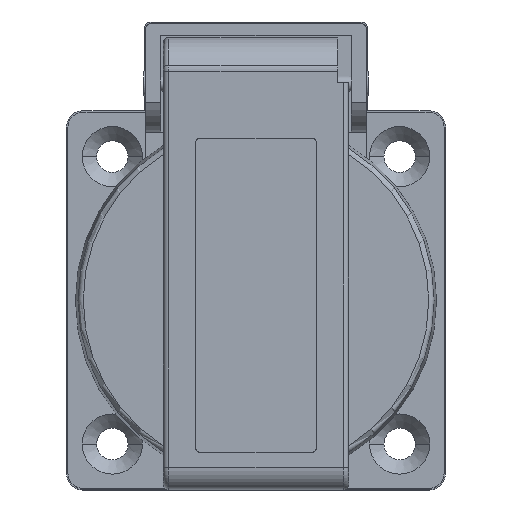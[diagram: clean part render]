
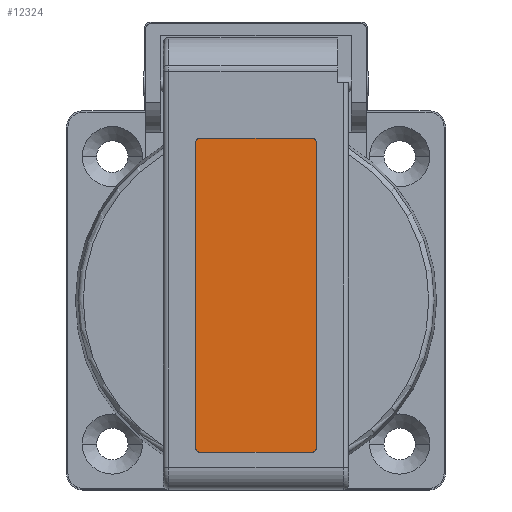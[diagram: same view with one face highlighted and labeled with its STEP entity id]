
A CAD part, top view. The second image highlights one B-rep face of the part: STEP entity #12324.
In plain terms, the highlighted planar face has unit normal (0, 0, 1).
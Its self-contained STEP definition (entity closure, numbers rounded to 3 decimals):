
#2327=CARTESIAN_POINT('',(-7.5,-19.7,13.8));
#2328=DIRECTION('',(0.,0.,1.));
#2329=DIRECTION('',(-1.,0.,0.));
#2330=AXIS2_PLACEMENT_3D('',#2327,#2328,#2329);
#2335=DIRECTION('',(0.,-1.,0.));
#2336=VECTOR('',#2335,40.7);
#2337=CARTESIAN_POINT('',(-8.,21.,13.8));
#2338=LINE('1462',#2337,#2336);
#2342=CARTESIAN_POINT('',(-7.5,21.,13.8));
#2343=DIRECTION('',(0.,0.,1.));
#2344=DIRECTION('',(0.,1.,0.));
#2345=AXIS2_PLACEMENT_3D('',#2342,#2343,#2344);
#2350=DIRECTION('',(-1.,0.,0.));
#2351=VECTOR('',#2350,15.);
#2352=CARTESIAN_POINT('',(7.5,21.5,13.8));
#2353=LINE('1461',#2352,#2351);
#2357=CARTESIAN_POINT('',(7.5,21.,13.8));
#2358=DIRECTION('',(0.,0.,1.));
#2359=DIRECTION('',(1.,0.,0.));
#2360=AXIS2_PLACEMENT_3D('',#2357,#2358,#2359);
#2365=DIRECTION('',(0.,1.,0.));
#2366=VECTOR('',#2365,40.7);
#2367=CARTESIAN_POINT('',(8.,-19.7,13.8));
#2368=LINE('1460',#2367,#2366);
#2372=CARTESIAN_POINT('',(7.5,-19.7,13.8));
#2373=DIRECTION('',(0.,0.,1.));
#2374=DIRECTION('',(0.,-1.,0.));
#2375=AXIS2_PLACEMENT_3D('',#2372,#2373,#2374);
#2380=DIRECTION('',(1.,0.,0.));
#2381=VECTOR('',#2380,15.);
#2382=CARTESIAN_POINT('',(-7.5,-20.2,13.8));
#2383=LINE('1459',#2382,#2381);
#8934=CARTESIAN_POINT('',(-8.,-19.7,13.8));
#8935=CARTESIAN_POINT('',(-7.5,-20.2,13.8));
#8936=VERTEX_POINT('',#8934);
#8937=VERTEX_POINT('',#8935);
#8942=CARTESIAN_POINT('',(7.5,-20.2,13.8));
#8943=CARTESIAN_POINT('',(8.,-19.7,13.8));
#8944=VERTEX_POINT('',#8942);
#8945=VERTEX_POINT('',#8943);
#8950=CARTESIAN_POINT('',(-7.5,21.5,13.8));
#8951=CARTESIAN_POINT('',(-8.,21.,13.8));
#8952=VERTEX_POINT('',#8950);
#8953=VERTEX_POINT('',#8951);
#8958=CARTESIAN_POINT('',(8.,21.,13.8));
#8959=CARTESIAN_POINT('',(7.5,21.5,13.8));
#8960=VERTEX_POINT('',#8958);
#8961=VERTEX_POINT('',#8959);
#12303=CARTESIAN_POINT('',(-12.3,0.,13.8));
#12304=DIRECTION('',(0.,0.,1.));
#12305=DIRECTION('',(0.,1.,0.));
#12306=AXIS2_PLACEMENT_3D('',#12303,#12304,#12305);
#12307=PLANE('1305',#12306);
#12308=ORIENTED_EDGE('1439',*,*,#12287,.F.);
#12310=ORIENTED_EDGE('1462',*,*,#12309,.F.);
#12312=ORIENTED_EDGE('1449',*,*,#12311,.F.);
#12314=ORIENTED_EDGE('1461',*,*,#12313,.F.);
#12316=ORIENTED_EDGE('1454',*,*,#12315,.F.);
#12318=ORIENTED_EDGE('1460',*,*,#12317,.F.);
#12320=ORIENTED_EDGE('1444',*,*,#12319,.F.);
#12321=ORIENTED_EDGE('1459',*,*,#12267,.F.);
#12322=EDGE_LOOP('1305',(#12308,#12310,#12312,#12314,#12316,#12318,#12320,
#12321));
#12323=FACE_OUTER_BOUND('1305',#12322,.F.);
#2331=CIRCLE('1439',#2330,0.5);
#2346=CIRCLE('1449',#2345,0.5);
#2361=CIRCLE('1454',#2360,0.5);
#2376=CIRCLE('1444',#2375,0.5);
#12267=EDGE_CURVE('1459',#8937,#8944,#2383,.T.);
#12287=EDGE_CURVE('1439',#8936,#8937,#2331,.T.);
#12309=EDGE_CURVE('1462',#8953,#8936,#2338,.T.);
#12311=EDGE_CURVE('1449',#8952,#8953,#2346,.T.);
#12313=EDGE_CURVE('1461',#8961,#8952,#2353,.T.);
#12315=EDGE_CURVE('1454',#8960,#8961,#2361,.T.);
#12317=EDGE_CURVE('1460',#8945,#8960,#2368,.T.);
#12319=EDGE_CURVE('1444',#8944,#8945,#2376,.T.);
#12324=ADVANCED_FACE('1305',(#12323),#12307,.T.);
